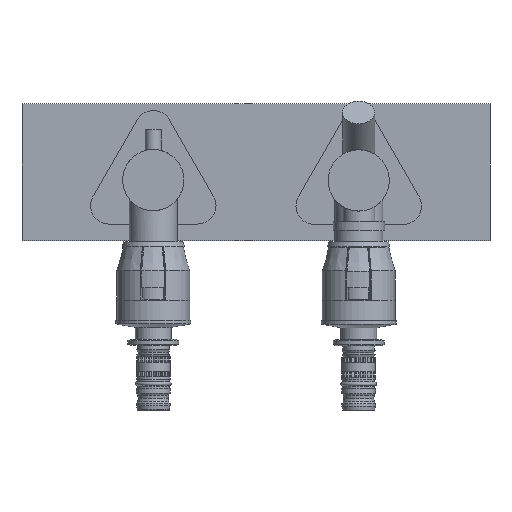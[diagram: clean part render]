
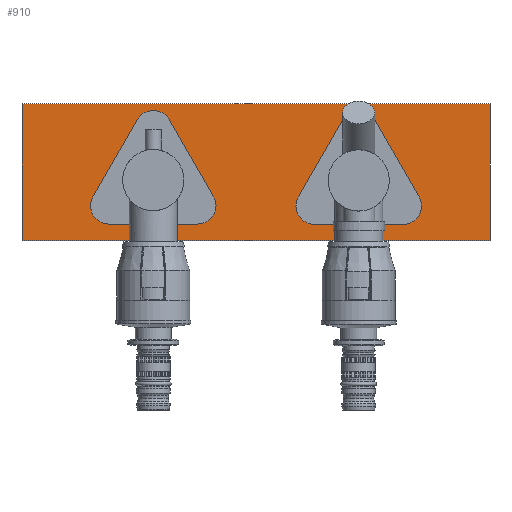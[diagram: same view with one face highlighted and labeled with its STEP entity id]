
A CAD part, front view. The second image highlights one B-rep face of the part: STEP entity #910.
In plain terms, the highlighted planar face has unit normal (0, -1, 0).
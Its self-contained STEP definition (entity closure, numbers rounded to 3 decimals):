
#910=ADVANCED_FACE('',(#1636),#1637,.T.);
#1636=FACE_OUTER_BOUND('',#3120,.T.);
#1637=PLANE('',#3121);
#3120=EDGE_LOOP('',(#4609,#4610,#4611,#4612));
#3121=AXIS2_PLACEMENT_3D('',#4613,#4614,#4615);
#4609=ORIENTED_EDGE('',*,*,#9252,.T.);
#4610=ORIENTED_EDGE('',*,*,#9253,.T.);
#4611=ORIENTED_EDGE('',*,*,#9250,.F.);
#4612=ORIENTED_EDGE('',*,*,#9254,.T.);
#4613=CARTESIAN_POINT('',(102.5,0.0,30.0));
#4614=DIRECTION('',(0.0,-1.0,0.0));
#4615=DIRECTION('',(0.0,0.0,-1.0));
#9250=EDGE_CURVE('',#10645,#10647,#10648,.T.);
#9252=EDGE_CURVE('',#10650,#10651,#10652,.T.);
#9253=EDGE_CURVE('',#10651,#10647,#10653,.T.);
#9254=EDGE_CURVE('',#10645,#10650,#10654,.T.);
#10645=VERTEX_POINT('',#12890);
#10647=VERTEX_POINT('',#12893);
#10648=LINE('',#12894,#12895);
#10650=VERTEX_POINT('',#12898);
#10651=VERTEX_POINT('',#12899);
#10652=LINE('',#12900,#12901);
#10653=LINE('',#12902,#12903);
#10654=LINE('',#12904,#12905);
#12890=CARTESIAN_POINT('',(102.5,0.0,-30.0));
#12893=CARTESIAN_POINT('',(-102.5,0.0,-30.0));
#12894=CARTESIAN_POINT('',(102.5,0.0,-30.0));
#12895=VECTOR('',#16637,1.0);
#12898=CARTESIAN_POINT('',(102.5,0.0,30.0));
#12899=CARTESIAN_POINT('',(-102.5,0.0,30.0));
#12900=CARTESIAN_POINT('',(102.5,0.0,30.0));
#12901=VECTOR('',#16639,1.0);
#12902=CARTESIAN_POINT('',(-102.5,0.0,30.0));
#12903=VECTOR('',#16640,1.0);
#12904=CARTESIAN_POINT('',(102.5,0.0,-30.0));
#12905=VECTOR('',#16641,1.0);
#16637=DIRECTION('',(-1.0,0.0,0.0));
#16639=DIRECTION('',(-1.0,0.0,0.0));
#16640=DIRECTION('',(0.0,0.0,-1.0));
#16641=DIRECTION('',(0.0,0.0,1.0));
